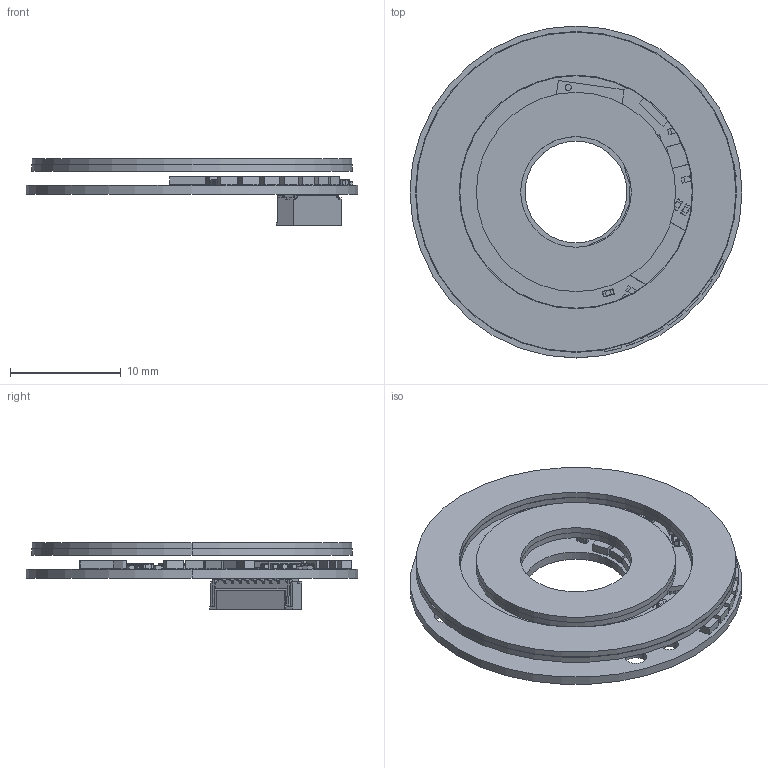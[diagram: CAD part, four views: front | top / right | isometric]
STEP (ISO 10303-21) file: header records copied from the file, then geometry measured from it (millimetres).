
FILE_DESCRIPTION((''),'2;1');
FILE_NAME('EAS-J034KP-HD----PRBS摩傖_34杶璃_ASM','2026-09-02T',('guxinfeng'),(''),'PRO/ENGINEER BY PARAMETRIC TECHNOLOGY CORPORATION, 2012480','PRO/ENGINEER BY PARAMETRIC TECHNOLOGY CORPORATION, 2012480','');
FILE_SCHEMA(('CONFIG_CONTROL_DESIGN'));
Products named in the file (193): OPEN_CASCADE_STEP_TRANSLATO-278; BOARD_ASM; MID_BODY-636; OPEN_CASCADE_STEP_TRANSLATO-822; TERMINAL-812_ASM; MARK-1134; 13882658880_ASM; R9_ASM; OPEN_CASCADE_STEP_TRANSLAT-1374; OPEN_CASCADE_STEP_TRANSLAT-1847; TERMINAL-1360_ASM; OPEN_CASCADE_STEP_TRANSLAT-2343; MID_BODY-2333_ASM; 8119054720_ASM; C23_ASM; C17_ASM; OPEN_CASCADE_STEP_TRANSLAT-2757; OPEN_CASCADE_STEP_TRANSLAT-3230; TERMINAL-2743_ASM; OPEN_CASCADE_STEP_TRANSLAT-3726; MID_BODY-3716_ASM; 22833540480_ASM; C12_ASM; C11_ASM; OPEN_CASCADE_STEP_TRANSLAT-4140; OPEN_CASCADE_STEP_TRANSLAT-4613; TERMINAL-4126_ASM; OPEN_CASCADE_STEP_TRANSLAT-5109; MID_BODY-5099_ASM; 21968281440_ASM; C20_ASM; C19_ASM; C18_ASM; C10_ASM; C3_ASM; MID_BODY-5594; OPEN_CASCADE_STEP_TRANSLAT-5780; TERMINAL-5770_ASM; MARK-6092; 11985880480_ASM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
Assembly tree (236 placements, depth 7):
  EAS-J034KP-HD----PRBS摩傖_34杶璃_ASM
    PCB_ASM
      BOARD_ASM
        OPEN_CASCADE_STEP_TRANSLATO-278
      R9_ASM
        13882658880_ASM
          MID_BODY-636
          TERMINAL-812_ASM  x2
            OPEN_CASCADE_STEP_TRANSLATO-822
          MARK-1134
      C23_ASM
        8119054720_ASM
          TERMINAL-1360_ASM
            OPEN_CASCADE_STEP_TRANSLAT-1374
            OPEN_CASCADE_STEP_TRANSLAT-1847
          MID_BODY-2333_ASM
            OPEN_CASCADE_STEP_TRANSLAT-2343
      C17_ASM
        8119054720_ASM
          TERMINAL-1360_ASM
            OPEN_CASCADE_STEP_TRANSLAT-1374
            OPEN_CASCADE_STEP_TRANSLAT-1847
          MID_BODY-2333_ASM
            OPEN_CASCADE_STEP_TRANSLAT-2343
      C12_ASM
        22833540480_ASM
          TERMINAL-2743_ASM
            OPEN_CASCADE_STEP_TRANSLAT-2757
            OPEN_CASCADE_STEP_TRANSLAT-3230
          MID_BODY-3716_ASM
            OPEN_CASCADE_STEP_TRANSLAT-3726
      C11_ASM
        22833540480_ASM
          TERMINAL-2743_ASM
            OPEN_CASCADE_STEP_TRANSLAT-2757
            OPEN_CASCADE_STEP_TRANSLAT-3230
          MID_BODY-3716_ASM
            OPEN_CASCADE_STEP_TRANSLAT-3726
      C20_ASM
        21968281440_ASM
          TERMINAL-4126_ASM
            OPEN_CASCADE_STEP_TRANSLAT-4140
            OPEN_CASCADE_STEP_TRANSLAT-4613
          MID_BODY-5099_ASM
            OPEN_CASCADE_STEP_TRANSLAT-5109
      C19_ASM
        21968281440_ASM
          TERMINAL-4126_ASM
            OPEN_CASCADE_STEP_TRANSLAT-4140
            OPEN_CASCADE_STEP_TRANSLAT-4613
          MID_BODY-5099_ASM
            OPEN_CASCADE_STEP_TRANSLAT-5109
      C18_ASM
        21968281440_ASM
          TERMINAL-4126_ASM
            OPEN_CASCADE_STEP_TRANSLAT-4140
            OPEN_CASCADE_STEP_TRANSLAT-4613
          MID_BODY-5099_ASM
            OPEN_CASCADE_STEP_TRANSLAT-5109
      C10_ASM
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Bounding box: 30 x 30 x 5.98 mm (x, y, z)
Volume: 1128.5 mm3; surface area: 4218.3 mm2
Topology: 178 solids, 179 shells, 4063 faces, 10901 edges, 6954 vertices
Faces by surface type: plane 3029, cylinder 846, sphere 184, cone 4
Entity records: 100083 total; most frequent: CARTESIAN_POINT 14009, DIRECTION 13351, ORIENTED_EDGE 12962, PRESENTATION_STYLE_ASSIGNMENT 6519, EDGE_CURVE 6481, STYLED_ITEM 6465, CURVE_STYLE 6320, VECTOR 5475
